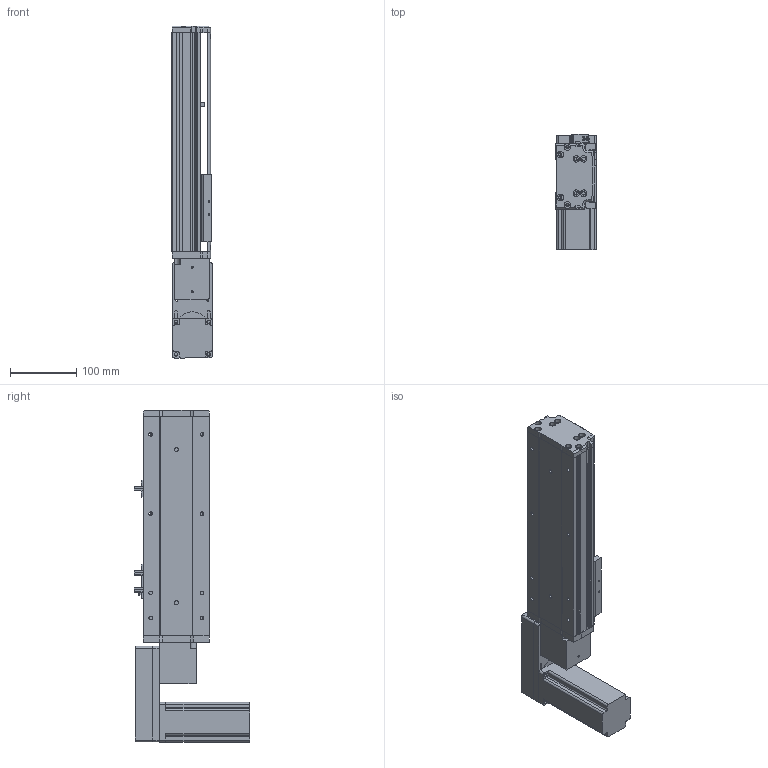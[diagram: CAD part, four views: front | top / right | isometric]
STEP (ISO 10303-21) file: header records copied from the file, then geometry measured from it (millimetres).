
FILE_DESCRIPTION (( 'STEP AP214' ), '1' );
FILE_NAME ('KSD100B-S150-MLB-CM.STEP', '2019-11-04T06:28:24', ( '微软用户' ), ( '微软中国' ), 'SwSTEP 2.0', 'SolidWorks 2014', '' );
FILE_SCHEMA (( 'AUTOMOTIVE_DESIGN' ));
Length unit declared in the file: millimetre
Products named in the file (12): U倰嫖萇EEㄜSX672; 覜茼え100遵圉猾敕; 100宽防尘板150行程-同步带; 100宽马达安装板同步带左; 100宽同步带安装板半封闭; 100宽马达安装板同步带; 100遵傷啣肮祭湍; 100宽底板半封闭同步带150行程; KSD100B-S150-MLB-CM; 悵誘欶奻狟殏; 100宽马达安装板连板上下折丝杆同步带; 台达ECMA－C20604AS伺服电机
Assembly tree (13 placements, depth 2):
  KSD100B-S150-MLB-CM
    100宽底板半封闭同步带150行程
    100遵傷啣肮祭湍
    100宽马达安装板同步带
    100宽同步带安装板半封闭
    100宽马达安装板同步带左
    100宽防尘板150行程-同步带
    覜茼え100遵圉猾敕
    U倰嫖萇EEㄜSX672  x3
    台达ECMA－C20604AS伺服电机
    100宽马达安装板连板上下折丝杆同步带
    悵誘欶奻狟殏
Bounding box: 61 x 174.7 x 503 mm (x, y, z)
Volume: 1405018 mm3; surface area: 418173.9 mm2
Topology: 14 solids, 14 shells, 1249 faces, 3480 edges, 2247 vertices
Faces by surface type: cylinder 599, plane 567, cone 83
Entity records: 42541 total; most frequent: CARTESIAN_POINT 7480, DIRECTION 5972, ORIENTED_EDGE 5700, EDGE_CURVE 2850, AXIS2_PLACEMENT_3D 2157, VERTEX_POINT 1871, LINE 1658, VECTOR 1658
